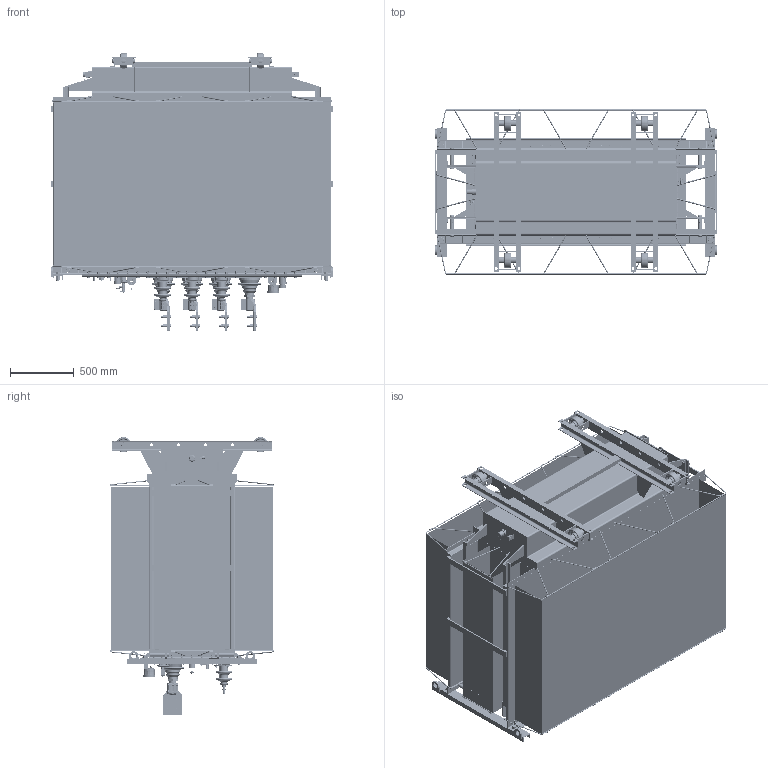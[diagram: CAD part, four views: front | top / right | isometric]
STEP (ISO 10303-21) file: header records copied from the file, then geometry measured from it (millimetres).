
FILE_DESCRIPTION(/* description */ (''),/* implementation_level */ '2;1');
FILE_NAME(/* name */ 'D:\SEARCHWORK\3Д_Модели\ТМГ33-2500\Серийный\ТМГ33-2500-10-ХЛ1-Х3К2.stp',/* time_stamp */ '2024-11-19T15:13:31+03:00',/* author */ ('53122'),/* organization */ (''),/* preprocessor_version */ 'ST-DEVELOPER v18.1',/* originating_system */ 'Autodesk Inventor 2021',/* authorisation */ '');
FILE_SCHEMA (('AUTOMOTIVE_DESIGN { 1 0 10303 214 3 1 1 }'));
Products named in the file (1): ВИЕЛ.672333.039_Shrinkwrap_1
Bounding box: 2210.2 x 1289.96 x 2171 mm (x, y, z)
Volume: 89323743.2 mm3; surface area: 52456409.2 mm2
Topology: 679 solids, 683 shells, 13012 faces, 31272 edges, 19960 vertices
Faces by surface type: plane 6434, cylinder 3199, bspline 2038, cone 809, torus 463, sphere 69
Full cylindrical faces by diameter (mm): 1.5 x4, 1.6 x7, 2 x2, 2.2 x1, 2.4 x2, 3 x5, 3.2 x4, 3.4 x4, 3.8 x8, 3.96 x3, 4 x7, 4.917 x5, 5 x10, 5.1 x3, 5.3 x3, 5.5 x9, 5.94 x5, 6 x18, 6.2 x1, 7 x10, 7.92 x3, 8 x96, 9 x4, 10 x47, 10.7 x6, 11 x1, 11.5 x1, 11.88 x80, 12 x297, 12.5 x7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
Entity records: 429248 total; most frequent: CARTESIAN_POINT 125746, ORIENTED_EDGE 62042, DIRECTION 55330, EDGE_CURVE 31037, AXIS2_PLACEMENT_3D 20089, VERTEX_POINT 19958, LINE 15152, VECTOR 15152
